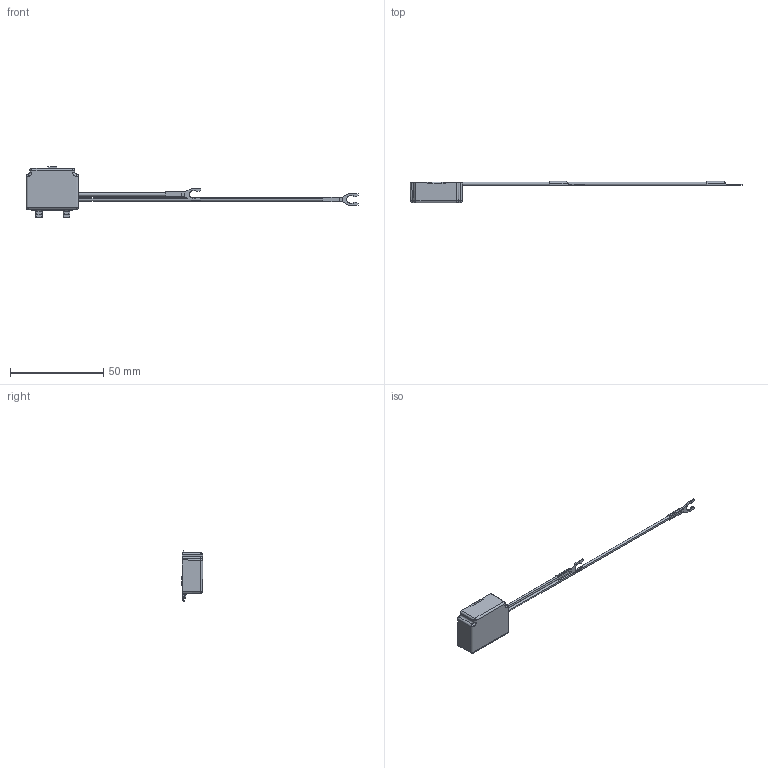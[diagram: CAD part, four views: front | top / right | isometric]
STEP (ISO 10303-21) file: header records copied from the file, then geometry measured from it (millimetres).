
FILE_DESCRIPTION (( 'STEP AP203' ), '1' );
FILE_NAME ('RC-K1.STEP', '2022-01-13T05:23:31', ( '' ), ( '' ), 'SwSTEP 2.0', 'SolidWorks 2019', '' );
FILE_SCHEMA (( 'CONFIG_CONTROL_DESIGN' ));
Length unit declared in the file: millimetre
Products named in the file (6): Kopie von Draht^L11678; RC-K1; L11678_L11678 f〉 K1; P1023_7 P1023-1; Kopie von Kopie von Draht^L11678; Kopie von Kabelschuh^L11678
Assembly tree (6 placements, depth 2):
  RC-K1
    P1023_7 P1023-1
    Kopie von Draht^L11678
    Kopie von Kabelschuh^L11678  x2
    Kopie von Kopie von Draht^L11678
    L11678_L11678 f〉 K1
Bounding box: 178.17 x 11.4 x 27.27 mm (x, y, z)
Volume: 6559.1 mm3; surface area: 6766.6 mm2
Topology: 6 solids, 6 shells, 263 faces, 687 edges, 423 vertices
Faces by surface type: plane 140, cylinder 90, bspline 23, sphere 9, cone 1
Entity records: 8167 total; most frequent: CARTESIAN_POINT 2215, ORIENTED_EDGE 1212, DIRECTION 997, EDGE_CURVE 606, LINE 391, VECTOR 391, VERTEX_POINT 379, AXIS2_PLACEMENT_3D 303
